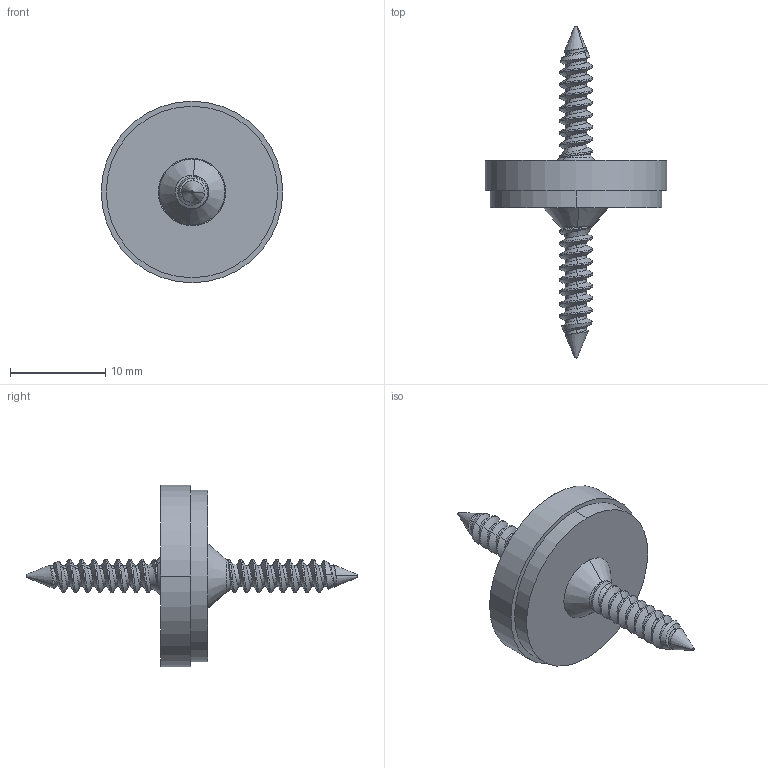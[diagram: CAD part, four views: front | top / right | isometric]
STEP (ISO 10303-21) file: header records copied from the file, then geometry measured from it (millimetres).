
FILE_DESCRIPTION (( 'STEP AP203' ), '1' );
FILE_NAME ('ML075.STEP', '2018-08-20T18:11:54', ( '' ), ( '' ), 'SwSTEP 2.0', 'SolidWorks 2015', '' );
FILE_SCHEMA (( 'CONFIG_CONTROL_DESIGN' ));
Length unit declared in the file: inch
Products named in the file (1): ML075
Bounding box: 19.05 x 34.85 x 19.05 mm (x, y, z)
Volume: 1350.6 mm3; surface area: 1841.6 mm2
Topology: 5 solids, 5 shells, 194 faces, 502 edges, 320 vertices
Faces by surface type: cylinder 74, plane 46, bspline 38, cone 26, torus 10
Entity records: 9255 total; most frequent: CARTESIAN_POINT 5049, ORIENTED_EDGE 1004, DIRECTION 676, EDGE_CURVE 502, VERTEX_POINT 320, AXIS2_PLACEMENT_3D 233, LINE 210, VECTOR 210
